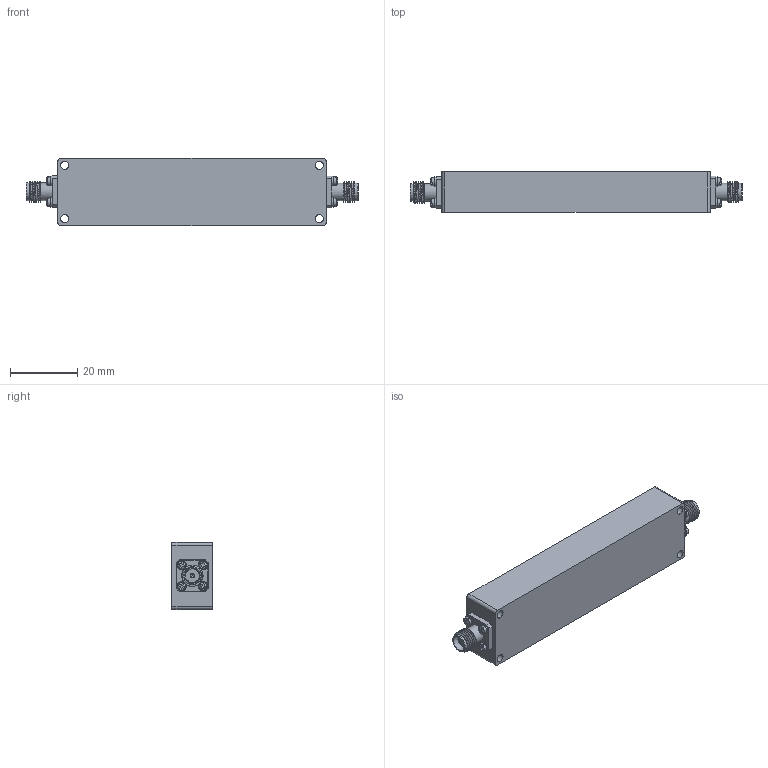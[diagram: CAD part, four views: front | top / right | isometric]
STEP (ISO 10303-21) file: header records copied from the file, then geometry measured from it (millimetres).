
FILE_DESCRIPTION (( 'STEP AP214' ), '1' );
FILE_NAME ('BPF-437D5M542D5M-SFF-2.STEP', '2026-05-22T21:23:03', ( '' ), ( '' ), 'SwSTEP 2.0', 'SolidWorks 2025', '' );
FILE_SCHEMA (( 'AUTOMOTIVE_DESIGN' ));
Length unit declared in the file: inch
Products named in the file (1): BPF-437D5M542D5M-SFF-2
Bounding box: 99.06 x 12.05 x 20 mm (x, y, z)
Volume: 19761.4 mm3; surface area: 10407.6 mm2
Topology: 20 solids, 20 shells, 524 faces, 1997 edges, 1669 vertices
Faces by surface type: plane 330, cylinder 116, torus 46, sphere 16, cone 12, bspline 4
Full cylindrical faces by diameter (mm): 0.381 x2, 0.457 x2, 0.711 x2, 1.016 x2, 1.27 x2, 1.524 x8, 1.702 x8, 2.438 x8, 2.464 x4, 3.302 x2, 4.191 x4, 4.597 x2, 5.283 x4
Entity records: 31170 total; most frequent: CARTESIAN_POINT 9683, ORIENTED_EDGE 3750, DIRECTION 3017, EDGE_CURVE 1875, VERTEX_POINT 1655, LINE 1089, VECTOR 1089, AXIS2_PLACEMENT_3D 964
